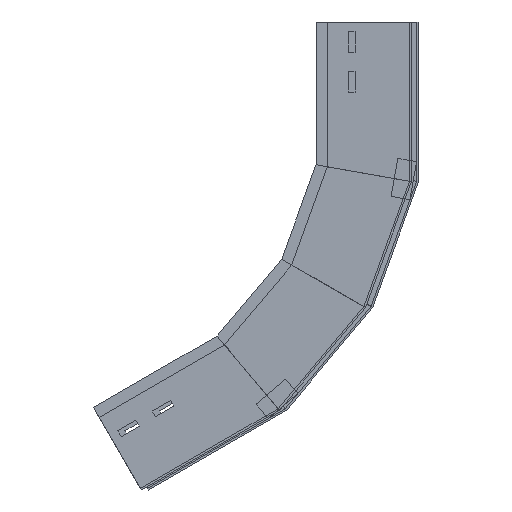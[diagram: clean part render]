
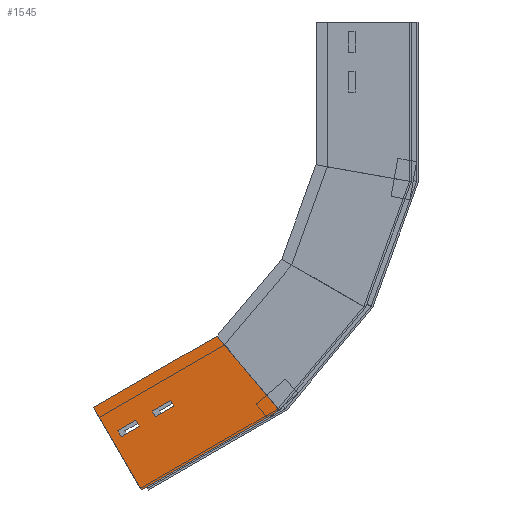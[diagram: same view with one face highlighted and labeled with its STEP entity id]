
A CAD part, left-side view. The second image highlights one B-rep face of the part: STEP entity #1545.
In plain terms, the highlighted planar face has unit normal (-1, 0, 0) as drawn and (1, 0, 0) by its records, which use the part's own axes.
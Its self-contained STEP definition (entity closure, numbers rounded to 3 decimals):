
#2 = ORIENTED_EDGE ( 'NONE', *, *, #812, .T. ) ;
#36 = CARTESIAN_POINT ( 'NONE',  ( 0., 59., -31.835 ) ) ;
#57 = CARTESIAN_POINT ( 'NONE',  ( 0., 59., -73.505 ) ) ;
#73 = DIRECTION ( 'NONE',  ( -1., 0., 0. ) ) ;
#81 = VERTEX_POINT ( 'NONE', #606 ) ;
#89 = DIRECTION ( 'NONE',  ( 0., -1., 0. ) ) ;
#102 = VECTOR ( 'NONE', #1363, 1000. ) ;
#104 = ORIENTED_EDGE ( 'NONE', *, *, #1664, .T. ) ;
#144 = ORIENTED_EDGE ( 'NONE', *, *, #1301, .T. ) ;
#145 = EDGE_CURVE ( 'NONE', #733, #661, #1250, .T. ) ;
#212 = CARTESIAN_POINT ( 'NONE',  ( 0., 59., -51.505 ) ) ;
#214 = VERTEX_POINT ( 'NONE', #1273 ) ;
#225 = CARTESIAN_POINT ( 'NONE',  ( 0., 66., -31.835 ) ) ;
#236 = LINE ( 'NONE', #1668, #1122 ) ;
#239 = CARTESIAN_POINT ( 'NONE',  ( 0., 66., -73.505 ) ) ;
#240 = CARTESIAN_POINT ( 'NONE',  ( 0., 66., -51.505 ) ) ;
#258 = VECTOR ( 'NONE', #483, 1000. ) ;
#281 = LINE ( 'NONE', #792, #736 ) ;
#354 = CARTESIAN_POINT ( 'NONE',  ( 0., 0., 0. ) ) ;
#355 = DIRECTION ( 'NONE',  ( 0., 1., 0. ) ) ;
#365 = LINE ( 'NONE', #354, #1479 ) ;
#380 = CARTESIAN_POINT ( 'NONE',  ( 0., 66., -9.835 ) ) ;
#413 = VECTOR ( 'NONE', #89, 1000. ) ;
#436 = CARTESIAN_POINT ( 'NONE',  ( 0., 0., 0. ) ) ;
#440 = AXIS2_PLACEMENT_3D ( 'NONE', #837, #73, #1635 ) ;
#441 = EDGE_CURVE ( 'NONE', #661, #1350, #1513, .T. ) ;
#468 = ORIENTED_EDGE ( 'NONE', *, *, #560, .F. ) ;
#483 = DIRECTION ( 'NONE',  ( 0., -1., 0. ) ) ;
#494 = CARTESIAN_POINT ( 'NONE',  ( 0., 59., -9.835 ) ) ;
#502 = ORIENTED_EDGE ( 'NONE', *, *, #1394, .T. ) ;
#556 = CARTESIAN_POINT ( 'NONE',  ( 0., 59., -51.505 ) ) ;
#560 = EDGE_CURVE ( 'NONE', #81, #646, #236, .T. ) ;
#577 = VECTOR ( 'NONE', #1276, 1000. ) ;
#584 = FACE_BOUND ( 'NONE', #1565, .T. ) ;
#606 = CARTESIAN_POINT ( 'NONE',  ( 0., 100., 0. ) ) ;
#619 = ORIENTED_EDGE ( 'NONE', *, *, #1683, .T. ) ;
#620 = DIRECTION ( 'NONE',  ( 0., 0., -1. ) ) ;
#646 = VERTEX_POINT ( 'NONE', #932 ) ;
#661 = VERTEX_POINT ( 'NONE', #556 ) ;
#673 = CARTESIAN_POINT ( 'NONE',  ( 0., 66., -73.505 ) ) ;
#725 = VERTEX_POINT ( 'NONE', #782 ) ;
#733 = VERTEX_POINT ( 'NONE', #57 ) ;
#736 = VECTOR ( 'NONE', #1315, 1000. ) ;
#739 = VECTOR ( 'NONE', #751, 1000. ) ;
#749 = DIRECTION ( 'NONE',  ( 0., 0., -1. ) ) ;
#751 = DIRECTION ( 'NONE',  ( 0., 0., 1. ) ) ;
#769 = LINE ( 'NONE', #380, #577 ) ;
#782 = CARTESIAN_POINT ( 'NONE',  ( 0., 59., -9.835 ) ) ;
#792 = CARTESIAN_POINT ( 'NONE',  ( 0., 28.627, -162.352 ) ) ;
#807 = ORIENTED_EDGE ( 'NONE', *, *, #1662, .T. ) ;
#812 = EDGE_CURVE ( 'NONE', #1498, #725, #881, .T. ) ;
#816 = ORIENTED_EDGE ( 'NONE', *, *, #936, .T. ) ;
#837 = CARTESIAN_POINT ( 'NONE',  ( 0., 0., 0. ) ) ;
#871 = CARTESIAN_POINT ( 'NONE',  ( 0., 66., -9.835 ) ) ;
#881 = LINE ( 'NONE', #494, #739 ) ;
#882 = CARTESIAN_POINT ( 'NONE',  ( 0., 0., 0. ) ) ;
#890 = LINE ( 'NONE', #240, #1419 ) ;
#908 = VERTEX_POINT ( 'NONE', #225 ) ;
#932 = CARTESIAN_POINT ( 'NONE',  ( 0., 100., -149.767 ) ) ;
#936 = EDGE_CURVE ( 'NONE', #908, #1498, #1249, .T. ) ;
#981 = VECTOR ( 'NONE', #1437, 1000. ) ;
#1001 = ORIENTED_EDGE ( 'NONE', *, *, #441, .T. ) ;
#1023 = EDGE_LOOP ( 'NONE', ( #502, #807, #816, #2 ) ) ;
#1025 = CARTESIAN_POINT ( 'NONE',  ( 0., 66., -51.505 ) ) ;
#1070 = VECTOR ( 'NONE', #1622, 1000. ) ;
#1077 = LINE ( 'NONE', #436, #1094 ) ;
#1094 = VECTOR ( 'NONE', #355, 1000. ) ;
#1103 = FACE_BOUND ( 'NONE', #1023, .T. ) ;
#1109 = CARTESIAN_POINT ( 'NONE',  ( 0., 66., -51.505 ) ) ;
#1116 = EDGE_CURVE ( 'NONE', #646, #214, #281, .T. ) ;
#1122 = VECTOR ( 'NONE', #749, 1000. ) ;
#1126 = FACE_OUTER_BOUND ( 'NONE', #1400, .T. ) ;
#1156 = ORIENTED_EDGE ( 'NONE', *, *, #1256, .F. ) ;
#1249 = LINE ( 'NONE', #1543, #413 ) ;
#1250 = LINE ( 'NONE', #212, #102 ) ;
#1256 = EDGE_CURVE ( 'NONE', #1383, #81, #1077, .T. ) ;
#1273 = CARTESIAN_POINT ( 'NONE',  ( 0., 0., -167.4 ) ) ;
#1276 = DIRECTION ( 'NONE',  ( 0., 0., -1. ) ) ;
#1277 = CARTESIAN_POINT ( 'NONE',  ( 0., 66., -9.835 ) ) ;
#1301 = EDGE_CURVE ( 'NONE', #1350, #1484, #890, .T. ) ;
#1315 = DIRECTION ( 'NONE',  ( 0., -0.985, -0.174 ) ) ;
#1350 = VERTEX_POINT ( 'NONE', #1025 ) ;
#1363 = DIRECTION ( 'NONE',  ( 0., 0., 1. ) ) ;
#1383 = VERTEX_POINT ( 'NONE', #882 ) ;
#1394 = EDGE_CURVE ( 'NONE', #725, #1644, #1402, .T. ) ;
#1400 = EDGE_LOOP ( 'NONE', ( #468, #1156, #104, #1561 ) ) ;
#1401 = LINE ( 'NONE', #239, #258 ) ;
#1402 = LINE ( 'NONE', #1277, #981 ) ;
#1408 = ORIENTED_EDGE ( 'NONE', *, *, #145, .T. ) ;
#1419 = VECTOR ( 'NONE', #1677, 1000. ) ;
#1437 = DIRECTION ( 'NONE',  ( 0., 1., 0. ) ) ;
#1479 = VECTOR ( 'NONE', #620, 1000. ) ;
#1484 = VERTEX_POINT ( 'NONE', #673 ) ;
#1498 = VERTEX_POINT ( 'NONE', #36 ) ;
#1513 = LINE ( 'NONE', #1109, #1070 ) ;
#1543 = CARTESIAN_POINT ( 'NONE',  ( 0., 66., -31.835 ) ) ;
#1545 = ADVANCED_FACE ( 'NONE', ( #584, #1126, #1103 ), #1615, .F. ) ;
#1561 = ORIENTED_EDGE ( 'NONE', *, *, #1116, .F. ) ;
#1565 = EDGE_LOOP ( 'NONE', ( #1001, #144, #619, #1408 ) ) ;
#1615 = PLANE ( 'NONE',  #440 ) ;
#1622 = DIRECTION ( 'NONE',  ( 0., 1., 0. ) ) ;
#1635 = DIRECTION ( 'NONE',  ( 0., 0., 1. ) ) ;
#1644 = VERTEX_POINT ( 'NONE', #871 ) ;
#1662 = EDGE_CURVE ( 'NONE', #1644, #908, #769, .T. ) ;
#1664 = EDGE_CURVE ( 'NONE', #1383, #214, #365, .T. ) ;
#1668 = CARTESIAN_POINT ( 'NONE',  ( 0., 100., 0. ) ) ;
#1677 = DIRECTION ( 'NONE',  ( 0., 0., -1. ) ) ;
#1683 = EDGE_CURVE ( 'NONE', #1484, #733, #1401, .T. ) ;
